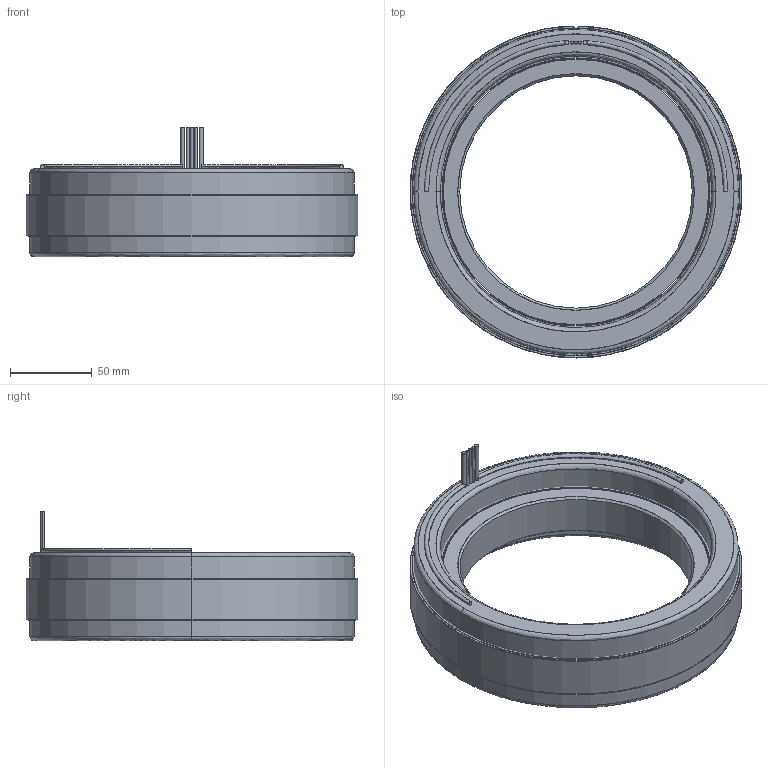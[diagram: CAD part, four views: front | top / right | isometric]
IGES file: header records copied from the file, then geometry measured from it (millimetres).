
Start section: SolidWorks IGES file using analytic representation for surfaces
Global section: file name: Z:\STANDARD STATOR ROTOR SETS\NEW DIRECT DRIVE MOTOR\8 OD 36S32P\6100326-02.IGS; native system: SolidWorks 2016; preprocessor: SolidWorks 2016; author: eng; date: 191023.162448; units: millimetre
Bounding box: 203.2 x 203.19 x 79.25 mm (x, y, z)
Surface area: 254010.5 mm2 (no closed solid volume)
Topology: 0 solids, 0 shells, 94 faces, 2568 edges, 2568 vertices
Faces by surface type: revolution 54, bspline 40
